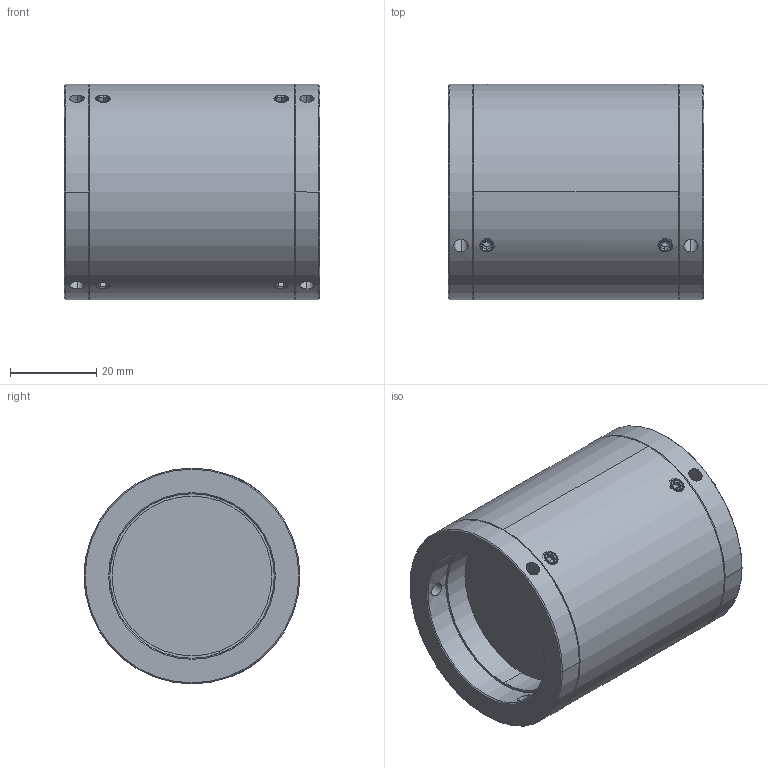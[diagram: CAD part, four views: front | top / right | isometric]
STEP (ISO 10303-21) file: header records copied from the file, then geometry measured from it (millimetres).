
FILE_DESCRIPTION (( 'STEP AP214' ), '1' );
FILE_NAME ('C60-TUBE-200NTi-M (CATALOG MODEL).STEP', '2026-06-23T19:02:40', ( '' ), ( '' ), 'SwSTEP 2.0', 'SolidWorks 2025', '' );
FILE_SCHEMA (( 'AUTOMOTIVE_DESIGN' ));
Length unit declared in the file: inch
Products named in the file (1): C60-TUBE-200NTi-M (CATALOG MODEL)
Bounding box: 59.28 x 50 x 50 mm (x, y, z)
Volume: 76358.1 mm3; surface area: 32407.4 mm2
Topology: 10 solids, 10 shells, 305 faces, 762 edges, 466 vertices
Faces by surface type: cylinder 100, plane 97, cone 90, bspline 18
Entity records: 17053 total; most frequent: CARTESIAN_POINT 8830, ORIENTED_EDGE 1476, DIRECTION 1246, EDGE_CURVE 738, AXIS2_PLACEMENT_3D 478, VERTEX_POINT 466, EDGE_LOOP 348, ADVANCED_FACE 305
